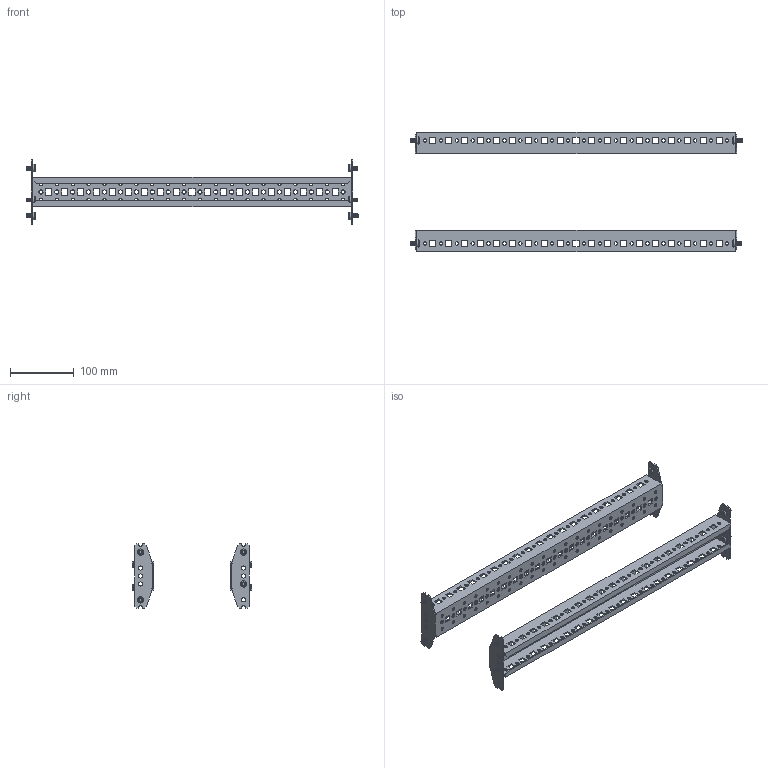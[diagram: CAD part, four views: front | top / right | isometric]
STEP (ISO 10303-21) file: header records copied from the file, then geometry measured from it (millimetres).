
FILE_DESCRIPTION (( 'STEP AP214' ), '1' );
FILE_NAME ('FO-00-VRC-060 Ðåéêà ìîíòàæíàÿ òèïà C 600 ìì (2 øò.óïàê.).STEP', '2025-07-31T12:06:12', ( '' ), ( '' ), 'SwSTEP 2.0', 'SolidWorks 2023', '' );
FILE_SCHEMA (( 'AUTOMOTIVE_DESIGN' ));
Length unit declared in the file: millimetre
Products named in the file (3): FO-00-VRC-060 Рейка монтажная типа C 600 мм (2 шт.упак.); Винт М6х10 600 IEK; Рейка монтажная типа C 600 мм
Assembly tree (6 placements, depth 2):
  FO-00-VRC-060 Рейка монтажная типа C 600 мм (2 шт.упак.)
    Рейка монтажная типа C 600 мм  x2
    Винт М6х10 600 IEK  x4
Bounding box: 522 x 188 x 101.5 mm (x, y, z)
Volume: 244670.4 mm3; surface area: 267814.9 mm2
Topology: 10 solids, 10 shells, 2092 faces, 5336 edges, 3280 vertices
Faces by surface type: cylinder 736, plane 708, cone 616, torus 32
Entity records: 25435 total; most frequent: DIRECTION 4420, CARTESIAN_POINT 4319, ORIENTED_EDGE 4252, EDGE_CURVE 2126, AXIS2_PLACEMENT_3D 1513, VECTOR 1394, LINE 1394, VERTEX_POINT 1348
